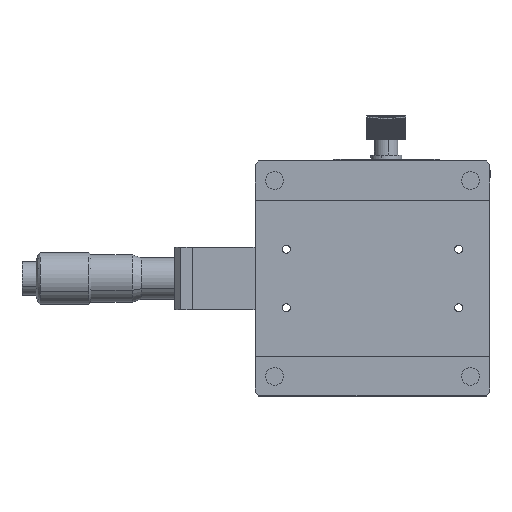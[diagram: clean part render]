
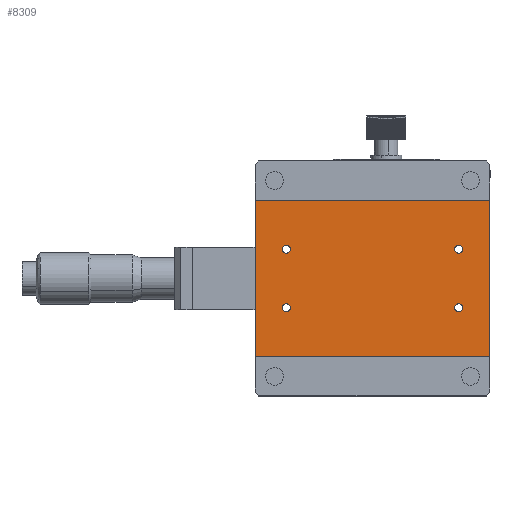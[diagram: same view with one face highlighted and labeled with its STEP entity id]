
A CAD part, top view. The second image highlights one B-rep face of the part: STEP entity #8309.
In plain terms, the highlighted planar face has unit normal (0, 0, 1).
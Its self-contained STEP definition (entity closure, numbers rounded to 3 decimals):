
#86 = VERTEX_POINT ( 'NONE', #16144 ) ;
#708 = DIRECTION ( 'NONE',  ( 1., 0., 0. ) ) ;
#716 = DIRECTION ( 'NONE',  ( 1., 0., 0. ) ) ;
#817 = VERTEX_POINT ( 'NONE', #1071 ) ;
#820 = DIRECTION ( 'NONE',  ( 0., 0., 1. ) ) ;
#901 = EDGE_CURVE ( 'NONE', #2511, #817, #8915, .T. ) ;
#1071 = CARTESIAN_POINT ( 'NONE',  ( 23.025, 7.5, 9.7 ) ) ;
#1247 = AXIS2_PLACEMENT_3D ( 'NONE', #6595, #820, #708 ) ;
#1464 = EDGE_CURVE ( 'NONE', #5765, #4974, #13329, .T. ) ;
#1606 = CARTESIAN_POINT ( 'NONE',  ( -22., -7.5, 9.7 ) ) ;
#1933 = ORIENTED_EDGE ( 'NONE', *, *, #7677, .F. ) ;
#2023 = CARTESIAN_POINT ( 'NONE',  ( -23.025, -7.5, 9.7 ) ) ;
#2107 = DIRECTION ( 'NONE',  ( 0., 0., 1. ) ) ;
#2285 = VERTEX_POINT ( 'NONE', #4734 ) ;
#2412 = AXIS2_PLACEMENT_3D ( 'NONE', #7109, #2812, #8507 ) ;
#2511 = VERTEX_POINT ( 'NONE', #5650 ) ;
#2581 = EDGE_CURVE ( 'NONE', #4466, #16118, #6776, .T. ) ;
#2735 = CARTESIAN_POINT ( 'NONE',  ( 30., -20., 9.7 ) ) ;
#2777 = CARTESIAN_POINT ( 'NONE',  ( -30., 20., 9.7 ) ) ;
#2812 = DIRECTION ( 'NONE',  ( 0., 0., 1. ) ) ;
#3170 = CARTESIAN_POINT ( 'NONE',  ( -20.975, -7.5, 9.7 ) ) ;
#3457 = DIRECTION ( 'NONE',  ( 1., 0., 0. ) ) ;
#3519 = ORIENTED_EDGE ( 'NONE', *, *, #2581, .F. ) ;
#3690 = CARTESIAN_POINT ( 'NONE',  ( 22., -7.5, 9.7 ) ) ;
#3882 = CARTESIAN_POINT ( 'NONE',  ( -30., -20., 9.7 ) ) ;
#4017 = CARTESIAN_POINT ( 'NONE',  ( -30., -20., 9.7 ) ) ;
#4466 = VERTEX_POINT ( 'NONE', #8094 ) ;
#4734 = CARTESIAN_POINT ( 'NONE',  ( -20.975, 7.5, 9.7 ) ) ;
#4797 = CIRCLE ( 'NONE', #2412, 1.025 ) ;
#4974 = VERTEX_POINT ( 'NONE', #6367 ) ;
#5046 = VECTOR ( 'NONE', #8230, 1000. ) ;
#5421 = CARTESIAN_POINT ( 'NONE',  ( 22., 7.5, 9.7 ) ) ;
#5650 = CARTESIAN_POINT ( 'NONE',  ( 20.975, 7.5, 9.7 ) ) ;
#5660 = ORIENTED_EDGE ( 'NONE', *, *, #8829, .F. ) ;
#5765 = VERTEX_POINT ( 'NONE', #2777 ) ;
#5974 = FACE_OUTER_BOUND ( 'NONE', #7084, .T. ) ;
#6197 = FACE_BOUND ( 'NONE', #8944, .T. ) ;
#6229 = CARTESIAN_POINT ( 'NONE',  ( -30., -20., 9.7 ) ) ;
#6367 = CARTESIAN_POINT ( 'NONE',  ( 30., 20., 9.7 ) ) ;
#6534 = VERTEX_POINT ( 'NONE', #2023 ) ;
#6595 = CARTESIAN_POINT ( 'NONE',  ( 22., -7.5, 9.7 ) ) ;
#6631 = CIRCLE ( 'NONE', #11700, 1.025 ) ;
#6776 = CIRCLE ( 'NONE', #1247, 1.025 ) ;
#6846 = ORIENTED_EDGE ( 'NONE', *, *, #10905, .F. ) ;
#6859 = CARTESIAN_POINT ( 'NONE',  ( 30., -20., 9.7 ) ) ;
#7084 = EDGE_LOOP ( 'NONE', ( #7447, #13595, #6846, #10521 ) ) ;
#7104 = DIRECTION ( 'NONE',  ( 1., 0., 0. ) ) ;
#7109 = CARTESIAN_POINT ( 'NONE',  ( -22., -7.5, 9.7 ) ) ;
#7447 = ORIENTED_EDGE ( 'NONE', *, *, #9883, .T. ) ;
#7566 = DIRECTION ( 'NONE',  ( 1., 0., 0. ) ) ;
#7677 = EDGE_CURVE ( 'NONE', #86, #2285, #8861, .T. ) ;
#7776 = EDGE_LOOP ( 'NONE', ( #7822, #11016 ) ) ;
#7822 = ORIENTED_EDGE ( 'NONE', *, *, #15870, .F. ) ;
#7879 = DIRECTION ( 'NONE',  ( -1., 0., 0. ) ) ;
#8094 = CARTESIAN_POINT ( 'NONE',  ( 23.025, -7.5, 9.7 ) ) ;
#8230 = DIRECTION ( 'NONE',  ( 0., 1., 0. ) ) ;
#8309 = ADVANCED_FACE ( 'NONE', ( #12142, #17976, #6197, #13273, #5974 ), #10495, .F. ) ;
#8507 = DIRECTION ( 'NONE',  ( 1., 0., 0. ) ) ;
#8804 = LINE ( 'NONE', #2735, #5046 ) ;
#8829 = EDGE_CURVE ( 'NONE', #16118, #4466, #6631, .T. ) ;
#8861 = CIRCLE ( 'NONE', #14653, 1.025 ) ;
#8915 = CIRCLE ( 'NONE', #14428, 1.025 ) ;
#8944 = EDGE_LOOP ( 'NONE', ( #3519, #5660 ) ) ;
#9037 = CARTESIAN_POINT ( 'NONE',  ( -30., -20., 9.7 ) ) ;
#9157 = VERTEX_POINT ( 'NONE', #3170 ) ;
#9232 = DIRECTION ( 'NONE',  ( 0., 0., -1. ) ) ;
#9321 = CARTESIAN_POINT ( 'NONE',  ( -22., 7.5, 9.7 ) ) ;
#9583 = CARTESIAN_POINT ( 'NONE',  ( -30., 20., 9.7 ) ) ;
#9883 = EDGE_CURVE ( 'NONE', #14258, #4974, #8804, .T. ) ;
#10164 = AXIS2_PLACEMENT_3D ( 'NONE', #10411, #13146, #7566 ) ;
#10411 = CARTESIAN_POINT ( 'NONE',  ( 22., 7.5, 9.7 ) ) ;
#10427 = CIRCLE ( 'NONE', #14821, 1.025 ) ;
#10460 = EDGE_LOOP ( 'NONE', ( #13738, #1933 ) ) ;
#10495 = PLANE ( 'NONE',  #12503 ) ;
#10521 = ORIENTED_EDGE ( 'NONE', *, *, #16827, .T. ) ;
#10905 = EDGE_CURVE ( 'NONE', #13723, #5765, #15998, .T. ) ;
#11016 = ORIENTED_EDGE ( 'NONE', *, *, #11358, .F. ) ;
#11358 = EDGE_CURVE ( 'NONE', #6534, #9157, #10427, .T. ) ;
#11700 = AXIS2_PLACEMENT_3D ( 'NONE', #3690, #2107, #3457 ) ;
#12142 = FACE_BOUND ( 'NONE', #10460, .T. ) ;
#12492 = ORIENTED_EDGE ( 'NONE', *, *, #16575, .F. ) ;
#12503 = AXIS2_PLACEMENT_3D ( 'NONE', #6229, #9232, #7879 ) ;
#12844 = DIRECTION ( 'NONE',  ( 0., 0., 1. ) ) ;
#13146 = DIRECTION ( 'NONE',  ( 0., 0., 1. ) ) ;
#13273 = FACE_BOUND ( 'NONE', #16275, .T. ) ;
#13329 = LINE ( 'NONE', #9583, #17799 ) ;
#13595 = ORIENTED_EDGE ( 'NONE', *, *, #1464, .F. ) ;
#13678 = DIRECTION ( 'NONE',  ( 1., 0., 0. ) ) ;
#13723 = VERTEX_POINT ( 'NONE', #4017 ) ;
#13738 = ORIENTED_EDGE ( 'NONE', *, *, #18258, .F. ) ;
#14258 = VERTEX_POINT ( 'NONE', #6859 ) ;
#14396 = CARTESIAN_POINT ( 'NONE',  ( -22., 7.5, 9.7 ) ) ;
#14425 = DIRECTION ( 'NONE',  ( 1., 0., 0. ) ) ;
#14428 = AXIS2_PLACEMENT_3D ( 'NONE', #5421, #16653, #16788 ) ;
#14513 = VECTOR ( 'NONE', #13678, 1000. ) ;
#14653 = AXIS2_PLACEMENT_3D ( 'NONE', #9321, #16480, #716 ) ;
#14685 = CIRCLE ( 'NONE', #18296, 1.025 ) ;
#14821 = AXIS2_PLACEMENT_3D ( 'NONE', #1606, #17263, #14425 ) ;
#14896 = CARTESIAN_POINT ( 'NONE',  ( 20.975, -7.5, 9.7 ) ) ;
#15416 = CIRCLE ( 'NONE', #10164, 1.025 ) ;
#15870 = EDGE_CURVE ( 'NONE', #9157, #6534, #4797, .T. ) ;
#15998 = LINE ( 'NONE', #9037, #18242 ) ;
#16118 = VERTEX_POINT ( 'NONE', #14896 ) ;
#16144 = CARTESIAN_POINT ( 'NONE',  ( -23.025, 7.5, 9.7 ) ) ;
#16186 = DIRECTION ( 'NONE',  ( 0., 1., 0. ) ) ;
#16275 = EDGE_LOOP ( 'NONE', ( #12492, #18001 ) ) ;
#16480 = DIRECTION ( 'NONE',  ( 0., 0., 1. ) ) ;
#16575 = EDGE_CURVE ( 'NONE', #817, #2511, #15416, .T. ) ;
#16653 = DIRECTION ( 'NONE',  ( 0., 0., 1. ) ) ;
#16679 = DIRECTION ( 'NONE',  ( 1., 0., 0. ) ) ;
#16788 = DIRECTION ( 'NONE',  ( 1., 0., 0. ) ) ;
#16827 = EDGE_CURVE ( 'NONE', #13723, #14258, #17225, .T. ) ;
#17225 = LINE ( 'NONE', #3882, #14513 ) ;
#17263 = DIRECTION ( 'NONE',  ( 0., 0., 1. ) ) ;
#17799 = VECTOR ( 'NONE', #16679, 1000. ) ;
#17976 = FACE_BOUND ( 'NONE', #7776, .T. ) ;
#18001 = ORIENTED_EDGE ( 'NONE', *, *, #901, .F. ) ;
#18242 = VECTOR ( 'NONE', #16186, 1000. ) ;
#18258 = EDGE_CURVE ( 'NONE', #2285, #86, #14685, .T. ) ;
#18296 = AXIS2_PLACEMENT_3D ( 'NONE', #14396, #12844, #7104 ) ;
